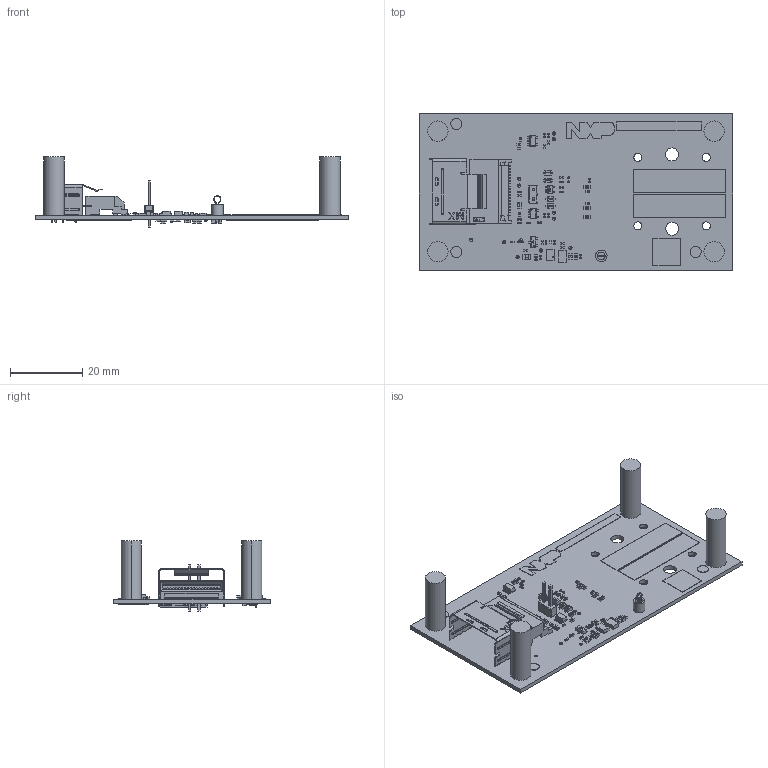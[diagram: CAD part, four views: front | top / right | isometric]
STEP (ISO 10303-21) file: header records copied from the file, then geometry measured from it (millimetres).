
FILE_DESCRIPTION(/* description */ ('PCB Design'),/* implementation_level */ '2;1');
FILE_NAME(/* name */ 'LAY-89961_B',/* time_stamp */ '2026-02-24T11:59:03+08:00',/* author */ (''),/* organization */ (''),/* preprocessor_version */ 'ST-DEVELOPER v16',/* originating_system */ 'allegro_17.4S037',/* authorisation */ '');
FILE_SCHEMA (('AUTOMOTIVE_DESIGN { 1 0 10303 214 3 1 1 }'));
Products named in the file (55): LAY-89961_B; BOARD_OUTLINE; COMPONENTS; 0603_SOLDER_BLOB_JUMPER_SHORT; CC0402_25; SC70-5; XTLOSC4_2P65X2P15_SM; UL_BOX; SCH_ID_BOX; ASSY_ID_BOX; WEEE_LOGO; FID_060; SERIAL_BOX; COPYRIGHT; CON2X18_RECEP_WSHELL_0P8_SM_RA; CON_2X15_0P4MM_SM; QFN12_0P5_2X3MM_EP; SOT23-5; RC0402_X2; 0402_CC; 0603_CC; HDR102_378H; IND_SPH2520; RC0402_25; RC0805_OV; TPAD_015; TESTPOINT_35MIL; C035S; NXP_LOGO_SOLID_SMALL; TP_TH_063; SPACER_139T; SOT23_A; SOD323; LED_0603; CC0603_OV; CC0402_TOL0P2; rc0603_ov; sc70-5; con2x18_recep_wshell_0p8_sm_ra; qfn12_0p5_2x3mm_ep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
Assembly tree (133 placements, depth 4):
  LAY-89961_B
    BOARD_OUTLINE
    COMPONENTS
      0603_SOLDER_BLOB_JUMPER_SHORT  x4
        rc0603_ov
      CC0402_25  x13
        CC0402_25
      SC70-5
        sc70-5
      XTLOSC4_2P65X2P15_SM
      UL_BOX
      SCH_ID_BOX
      ASSY_ID_BOX
      WEEE_LOGO
      FID_060  x6
      SERIAL_BOX
      COPYRIGHT
      CON2X18_RECEP_WSHELL_0P8_SM_RA
        con2x18_recep_wshell_0p8_sm_ra
      CON_2X15_0P4MM_SM
      QFN12_0P5_2X3MM_EP
        qfn12_0p5_2x3mm_ep
      SOT23-5  x2
        sot23-5
      RC0402_X2  x2
        RC0402_25
      0402_CC  x5
        0402_cc
      0603_CC
        0603_cc
      HDR102_378H
        hdr102_378h
      IND_SPH2520
      RC0402_25  x29
        RC0402_25
      RC0805_OV
        rc0805_ov
      TPAD_015  x3
      TESTPOINT_35MIL  x11
        TESTPOINT_35MIL
      C035S
        C035S
      NXP_LOGO_SOLID_SMALL
      TP_TH_063
        tp_th_063
      SPACER_139T  x4
      SOT23_A  x3
        sot23_a
      SOD323  x4
        SOD323
      LED_0603
        APTD1608
      CC0603_OV  x3
        cc0603_ov
      CC0402_TOL0P2  x3
        cc0402_tol0p2
Bounding box: 86.36 x 43.18 x 19.33 mm (x, y, z)
Volume: 782.1 mm3; surface area: 13235.5 mm2
Topology: 128 solids, 152 shells, 8760 faces, 23215 edges, 15401 vertices
Faces by surface type: plane 5564, bspline 2498, cylinder 664, sphere 30, cone 4
Entity records: 174340 total; most frequent: CARTESIAN_POINT 63225, ORIENTED_EDGE 21504, DIRECTION 15883, EDGE_CURVE 10774, VECTOR 8016, LINE 8016, VERTEX_POINT 7195, EDGE_LOOP 4239
